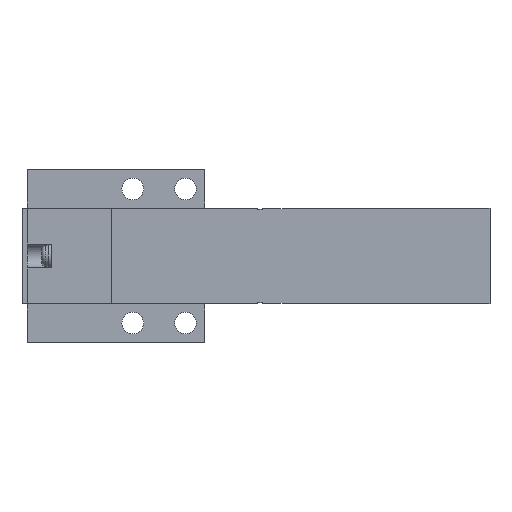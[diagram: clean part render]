
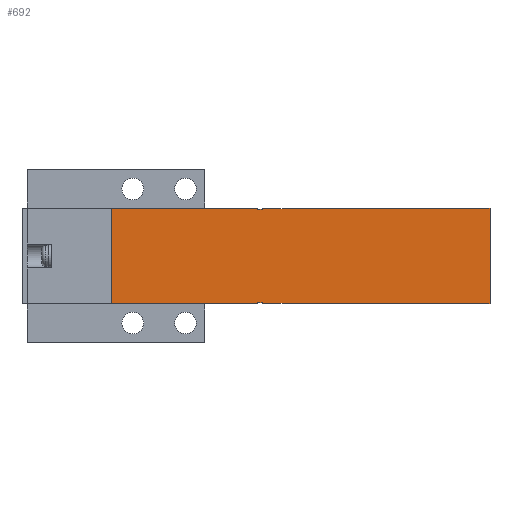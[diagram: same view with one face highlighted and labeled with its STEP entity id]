
A CAD part, front view. The second image highlights one B-rep face of the part: STEP entity #692.
In plain terms, the highlighted planar face has unit normal (0, -1, 0).
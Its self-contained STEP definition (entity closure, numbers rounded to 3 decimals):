
#692=ADVANCED_FACE('',(#1530),#1531,.F.);
#1530=FACE_OUTER_BOUND('',#2448,.T.);
#1531=PLANE('',#2449);
#2448=EDGE_LOOP('',(#5517,#5518,#5519,#5520,#5521,#5522,#5523,#5524,#5525,#5526,#5527,#5528,#5529,#5530,#5531,#5532,#5533,#5534,#5535,#5536,#5537,#5538,#5539,#5540));
#2449=AXIS2_PLACEMENT_3D('',#5541,#5542,#5543);
#5517=ORIENTED_EDGE('',*,*,#6634,.F.);
#5518=ORIENTED_EDGE('',*,*,#6665,.T.);
#5519=ORIENTED_EDGE('',*,*,#6661,.T.);
#5520=ORIENTED_EDGE('',*,*,#6666,.F.);
#5521=ORIENTED_EDGE('',*,*,#6864,.F.);
#5522=ORIENTED_EDGE('',*,*,#6631,.T.);
#5523=ORIENTED_EDGE('',*,*,#6863,.F.);
#5524=ORIENTED_EDGE('',*,*,#6750,.T.);
#5525=ORIENTED_EDGE('',*,*,#6753,.F.);
#5526=ORIENTED_EDGE('',*,*,#6850,.T.);
#5527=ORIENTED_EDGE('',*,*,#6697,.T.);
#5528=ORIENTED_EDGE('',*,*,#6700,.T.);
#5529=ORIENTED_EDGE('',*,*,#6865,.T.);
#5530=ORIENTED_EDGE('',*,*,#6647,.F.);
#5531=ORIENTED_EDGE('',*,*,#6866,.T.);
#5532=ORIENTED_EDGE('',*,*,#6668,.F.);
#5533=ORIENTED_EDGE('',*,*,#6657,.T.);
#5534=ORIENTED_EDGE('',*,*,#6663,.T.);
#5535=ORIENTED_EDGE('',*,*,#6650,.T.);
#5536=ORIENTED_EDGE('',*,*,#6640,.T.);
#5537=ORIENTED_EDGE('',*,*,#6867,.T.);
#5538=ORIENTED_EDGE('',*,*,#6828,.F.);
#5539=ORIENTED_EDGE('',*,*,#6843,.F.);
#5540=ORIENTED_EDGE('',*,*,#6677,.F.);
#5541=CARTESIAN_POINT('',(18.6,0.0,10.0));
#5542=DIRECTION('',(-0.0,1.0,0.0));
#5543=DIRECTION('',(1.0,0.0,0.0));
#6631=EDGE_CURVE('',#8181,#8179,#8182,.T.);
#6634=EDGE_CURVE('',#8184,#8187,#8188,.T.);
#6640=EDGE_CURVE('',#8199,#8197,#8200,.T.);
#6647=EDGE_CURVE('',#8211,#8213,#8214,.T.);
#6650=EDGE_CURVE('',#8218,#8199,#8219,.T.);
#6657=EDGE_CURVE('',#8225,#8230,#8232,.T.);
#6661=EDGE_CURVE('',#8234,#8238,#8240,.T.);
#6663=EDGE_CURVE('',#8230,#8218,#8242,.T.);
#6665=EDGE_CURVE('',#8184,#8234,#8244,.T.);
#6666=EDGE_CURVE('',#8245,#8238,#8246,.T.);
#6668=EDGE_CURVE('',#8225,#8248,#8249,.T.);
#6677=EDGE_CURVE('',#8187,#8262,#8263,.T.);
#6697=EDGE_CURVE('',#8295,#8293,#8296,.T.);
#6700=EDGE_CURVE('',#8293,#8299,#8301,.T.);
#6750=EDGE_CURVE('',#8392,#8390,#8393,.T.);
#6753=EDGE_CURVE('',#8396,#8390,#8398,.T.);
#6828=EDGE_CURVE('',#8519,#8517,#8521,.T.);
#6843=EDGE_CURVE('',#8262,#8519,#8539,.T.);
#6850=EDGE_CURVE('',#8396,#8295,#8547,.T.);
#6863=EDGE_CURVE('',#8392,#8179,#8560,.T.);
#6864=EDGE_CURVE('',#8181,#8245,#8561,.T.);
#6865=EDGE_CURVE('',#8299,#8213,#8562,.T.);
#6866=EDGE_CURVE('',#8211,#8248,#8563,.T.);
#6867=EDGE_CURVE('',#8197,#8517,#8564,.T.);
#8179=VERTEX_POINT('',#10701);
#8181=VERTEX_POINT('',#10704);
#8182=LINE('',#10705,#10706);
#8184=VERTEX_POINT('',#10709);
#8187=VERTEX_POINT('',#10713);
#8188=LINE('',#10714,#10715);
#8197=VERTEX_POINT('',#10728);
#8199=VERTEX_POINT('',#10731);
#8200=LINE('',#10732,#10733);
#8211=VERTEX_POINT('',#10749);
#8213=VERTEX_POINT('',#10752);
#8214=LINE('',#10753,#10754);
#8218=VERTEX_POINT('',#10760);
#8219=LINE('',#10761,#10762);
#8225=VERTEX_POINT('',#10771);
#8230=VERTEX_POINT('',#10778);
#8232=LINE('',#10781,#10782);
#8234=VERTEX_POINT('',#10784);
#8238=VERTEX_POINT('',#10790);
#8240=LINE('',#10793,#10794);
#8242=LINE('',#10797,#10798);
#8244=LINE('',#10801,#10802);
#8245=VERTEX_POINT('',#10803);
#8246=LINE('',#10804,#10805);
#8248=VERTEX_POINT('',#10808);
#8249=LINE('',#10809,#10810);
#8262=VERTEX_POINT('',#10830);
#8263=LINE('',#10831,#10832);
#8293=VERTEX_POINT('',#10880);
#8295=VERTEX_POINT('',#10883);
#8296=LINE('',#10884,#10885);
#8299=VERTEX_POINT('',#10889);
#8301=LINE('',#10892,#10893);
#8390=VERTEX_POINT('',#11024);
#8392=VERTEX_POINT('',#11027);
#8393=LINE('',#11028,#11029);
#8396=VERTEX_POINT('',#11033);
#8398=LINE('',#11036,#11037);
#8517=VERTEX_POINT('',#11223);
#8519=VERTEX_POINT('',#11226);
#8521=LINE('',#11229,#11230);
#8539=LINE('',#11262,#11263);
#8547=LINE('',#11277,#11278);
#8560=LINE('',#11299,#11300);
#8561=LINE('',#11301,#11302);
#8562=LINE('',#11303,#11304);
#8563=LINE('',#11305,#11306);
#8564=LINE('',#11307,#11308);
#10701=CARTESIAN_POINT('',(44.1,0.0,10.0));
#10704=CARTESIAN_POINT('',(44.1,0.0,9.9));
#10705=CARTESIAN_POINT('',(44.1,0.0,9.9));
#10706=VECTOR('',#12465,1.0);
#10709=CARTESIAN_POINT('',(50.1,0.0,9.9));
#10713=CARTESIAN_POINT('',(55.1,0.0,9.9));
#10714=CARTESIAN_POINT('',(44.1,0.0,9.9));
#10715=VECTOR('',#12468,1.0);
#10728=CARTESIAN_POINT('',(55.1,0.0,-10.0));
#10731=CARTESIAN_POINT('',(55.1,0.0,-9.9));
#10732=CARTESIAN_POINT('',(55.1,0.0,-9.9));
#10733=VECTOR('',#12474,1.0);
#10749=CARTESIAN_POINT('',(44.1,0.0,-9.9));
#10752=CARTESIAN_POINT('',(44.1,0.0,-10.0));
#10753=CARTESIAN_POINT('',(44.1,0.0,-9.9));
#10754=VECTOR('',#12481,1.0);
#10760=CARTESIAN_POINT('',(50.1,0.0,-9.9));
#10761=CARTESIAN_POINT('',(44.1,0.0,-9.9));
#10762=VECTOR('',#12484,1.0);
#10771=CARTESIAN_POINT('',(49.1,0.0,-9.8));
#10778=CARTESIAN_POINT('',(50.1,0.0,-9.8));
#10781=CARTESIAN_POINT('',(18.6,0.0,-9.8));
#10782=VECTOR('',#12491,1.0);
#10784=CARTESIAN_POINT('',(50.1,0.0,9.8));
#10790=CARTESIAN_POINT('',(49.1,0.0,9.8));
#10793=CARTESIAN_POINT('',(18.6,0.0,9.8));
#10794=VECTOR('',#12495,1.0);
#10797=CARTESIAN_POINT('',(50.1,0.0,10.0));
#10798=VECTOR('',#12497,1.0);
#10801=CARTESIAN_POINT('',(50.1,0.0,10.0));
#10802=VECTOR('',#12499,1.0);
#10803=CARTESIAN_POINT('',(49.1,0.0,9.9));
#10804=CARTESIAN_POINT('',(49.1,0.0,10.0));
#10805=VECTOR('',#12500,1.0);
#10808=CARTESIAN_POINT('',(49.1,0.0,-9.9));
#10809=CARTESIAN_POINT('',(49.1,0.0,10.0));
#10810=VECTOR('',#12502,1.0);
#10830=CARTESIAN_POINT('',(55.1,0.0,10.0));
#10831=CARTESIAN_POINT('',(55.1,0.0,9.9));
#10832=VECTOR('',#12513,1.0);
#10880=CARTESIAN_POINT('',(35.1,0.0,-9.9));
#10883=CARTESIAN_POINT('',(18.6,0.0,-9.9));
#10884=CARTESIAN_POINT('',(18.6,0.0,-9.9));
#10885=VECTOR('',#12533,1.0);
#10889=CARTESIAN_POINT('',(35.1,0.0,-10.0));
#10892=CARTESIAN_POINT('',(35.1,0.0,-9.9));
#10893=VECTOR('',#12536,1.0);
#11024=CARTESIAN_POINT('',(35.1,0.0,9.9));
#11027=CARTESIAN_POINT('',(35.1,0.0,10.0));
#11028=CARTESIAN_POINT('',(35.1,0.0,10.1));
#11029=VECTOR('',#12598,1.0);
#11033=CARTESIAN_POINT('',(18.6,0.0,9.9));
#11036=CARTESIAN_POINT('',(18.6,0.0,9.9));
#11037=VECTOR('',#12601,1.0);
#11223=CARTESIAN_POINT('',(97.6,0.0,-10.0));
#11226=CARTESIAN_POINT('',(97.6,0.0,10.0));
#11229=CARTESIAN_POINT('',(97.6,0.0,10.0));
#11230=VECTOR('',#12686,1.0);
#11262=CARTESIAN_POINT('',(18.6,0.0,10.0));
#11263=VECTOR('',#12701,1.0);
#11277=CARTESIAN_POINT('',(18.6,0.0,10.0));
#11278=VECTOR('',#12708,1.0);
#11299=CARTESIAN_POINT('',(18.6,0.0,10.0));
#11300=VECTOR('',#12729,1.0);
#11301=CARTESIAN_POINT('',(44.1,0.0,9.9));
#11302=VECTOR('',#12730,1.0);
#11303=CARTESIAN_POINT('',(18.6,0.0,-10.0));
#11304=VECTOR('',#12731,1.0);
#11305=CARTESIAN_POINT('',(44.1,0.0,-9.9));
#11306=VECTOR('',#12732,1.0);
#11307=CARTESIAN_POINT('',(18.6,0.0,-10.0));
#11308=VECTOR('',#12733,1.0);
#12465=DIRECTION('',(0.0,0.0,1.0));
#12468=DIRECTION('',(1.0,0.0,0.0));
#12474=DIRECTION('',(0.0,0.0,-1.0));
#12481=DIRECTION('',(0.0,0.0,-1.0));
#12484=DIRECTION('',(1.0,0.0,0.0));
#12491=DIRECTION('',(1.0,0.0,0.0));
#12495=DIRECTION('',(-1.0,0.0,0.0));
#12497=DIRECTION('',(0.0,0.0,-1.0));
#12499=DIRECTION('',(0.0,0.0,-1.0));
#12500=DIRECTION('',(0.0,0.0,-1.0));
#12502=DIRECTION('',(0.0,0.0,-1.0));
#12513=DIRECTION('',(0.0,0.0,1.0));
#12533=DIRECTION('',(1.0,0.0,0.0));
#12536=DIRECTION('',(0.0,0.0,-1.0));
#12598=DIRECTION('',(0.0,0.0,-1.0));
#12601=DIRECTION('',(1.0,0.0,0.0));
#12686=DIRECTION('',(0.0,0.0,-1.0));
#12701=DIRECTION('',(1.0,0.0,0.0));
#12708=DIRECTION('',(0.0,0.0,-1.0));
#12729=DIRECTION('',(1.0,0.0,0.0));
#12730=DIRECTION('',(1.0,0.0,0.0));
#12731=DIRECTION('',(1.0,0.0,0.0));
#12732=DIRECTION('',(1.0,0.0,0.0));
#12733=DIRECTION('',(1.0,0.0,0.0));
